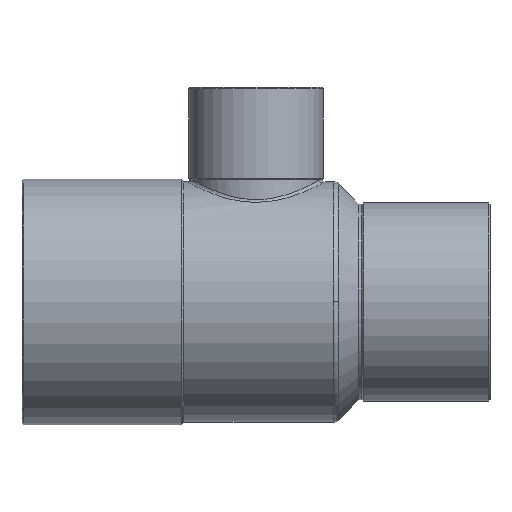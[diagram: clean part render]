
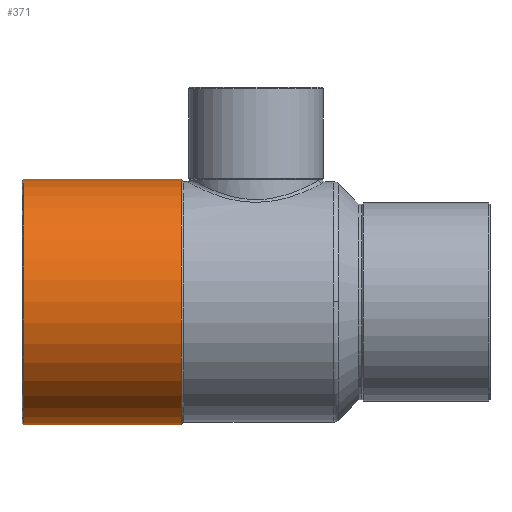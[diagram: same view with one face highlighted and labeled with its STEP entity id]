
A CAD part, top view. The second image highlights one B-rep face of the part: STEP entity #371.
In plain terms, the highlighted cylindrical face has radius 18.875 mm (diameter 37.75 mm), a partial arc.
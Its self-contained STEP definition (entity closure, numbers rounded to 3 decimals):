
#303=CARTESIAN_POINT('',(-11.503,18.875,0.0));
#304=VERTEX_POINT('',#303);
#313=CARTESIAN_POINT('',(-11.503,-18.875,0.));
#314=VERTEX_POINT('',#313);
#315=CARTESIAN_POINT('',(-11.503,0.0,0.0));
#316=DIRECTION('',(1.0,0.0,0.0));
#317=DIRECTION('',(0.0,1.0,0.0));
#318=AXIS2_PLACEMENT_3D('',#315,#316,#317);
#319=CIRCLE('',#318,18.875);
#320=EDGE_CURVE('',#304,#314,#319,.T.);
#340=CARTESIAN_POINT('',(-23.751,0.0,0.0));
#341=DIRECTION('',(1.0,0.0,0.0));
#342=DIRECTION('',(0.0,1.0,0.0));
#343=AXIS2_PLACEMENT_3D('',#340,#341,#342);
#344=CYLINDRICAL_SURFACE('',#343,18.875);
#345=CARTESIAN_POINT('',(-35.8,18.875,0.));
#346=VERTEX_POINT('',#345);
#347=CARTESIAN_POINT('',(-35.8,18.875,0.));
#348=DIRECTION('',(1.0,0.0,0.0));
#349=VECTOR('',#348,24.297);
#350=LINE('',#347,#349);
#351=EDGE_CURVE('',#346,#304,#350,.T.);
#352=ORIENTED_EDGE('',*,*,#351,.F.);
#353=CARTESIAN_POINT('',(-35.8,-18.875,0.));
#354=VERTEX_POINT('',#353);
#355=CARTESIAN_POINT('',(-35.8,0.0,0.0));
#356=DIRECTION('',(-1.0,0.0,0.0));
#357=DIRECTION('',(0.0,-1.0,0.0));
#358=AXIS2_PLACEMENT_3D('',#355,#356,#357);
#359=CIRCLE('',#358,18.875);
#360=EDGE_CURVE('',#354,#346,#359,.T.);
#361=ORIENTED_EDGE('',*,*,#360,.F.);
#362=CARTESIAN_POINT('',(-11.503,-18.875,0.));
#363=DIRECTION('',(-1.0,0.0,0.0));
#364=VECTOR('',#363,24.297);
#365=LINE('',#362,#364);
#366=EDGE_CURVE('',#314,#354,#365,.T.);
#367=ORIENTED_EDGE('',*,*,#366,.F.);
#368=ORIENTED_EDGE('',*,*,#320,.F.);
#369=EDGE_LOOP('',(#352,#361,#367,#368));
#370=FACE_OUTER_BOUND('',#369,.T.);
#371=ADVANCED_FACE('',(#370),#344,.T.);
